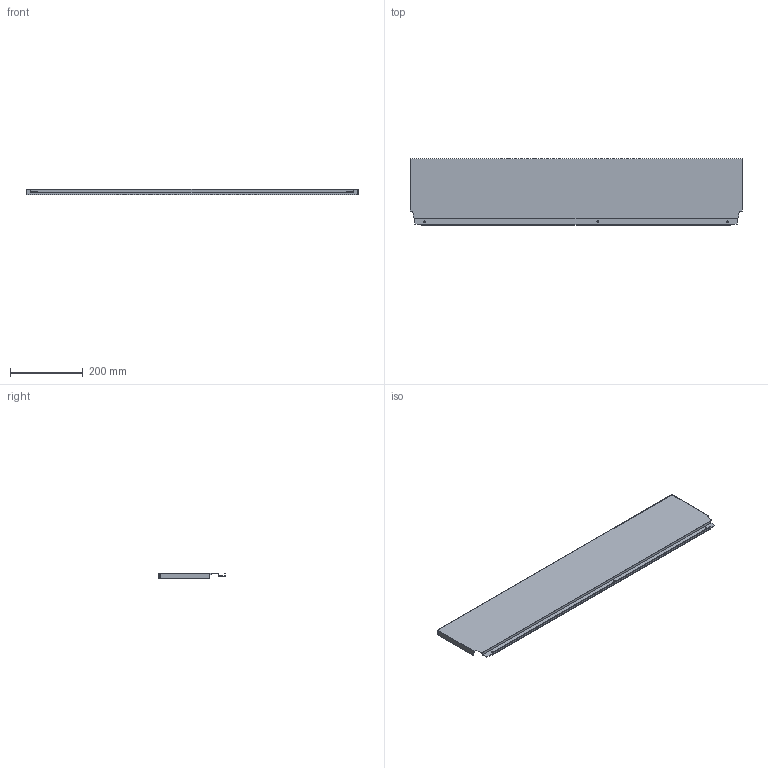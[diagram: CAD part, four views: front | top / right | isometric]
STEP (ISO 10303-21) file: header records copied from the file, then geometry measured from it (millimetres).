
FILE_DESCRIPTION (( 'STEP AP214' ), '1' );
FILE_NAME ('_DWD_XP Stahlrückwand_H182_KAB1000_S18.step', '2010-07-08T12:58:01', ( 'grass' ), ( '' ), 'SwSTEP 2.0', 'SolidWorks 2010', '' );
FILE_SCHEMA (( 'AUTOMOTIVE_DESIGN' ));
Length unit declared in the file: millimetre
Products named in the file (1): _DWD_XP Stahlrückwand_H182_KAB1000_S18
Bounding box: 913 x 182.49 x 16 mm (x, y, z)
Volume: 171111.3 mm3; surface area: 395441.9 mm2
Topology: 1 solids, 1 shells, 46 faces, 132 edges, 88 vertices
Faces by surface type: plane 40, cylinder 6
Entity records: 1534 total; most frequent: CARTESIAN_POINT 267, ORIENTED_EDGE 264, DIRECTION 238, EDGE_CURVE 132, VECTOR 120, LINE 120, VERTEX_POINT 88, AXIS2_PLACEMENT_3D 59
